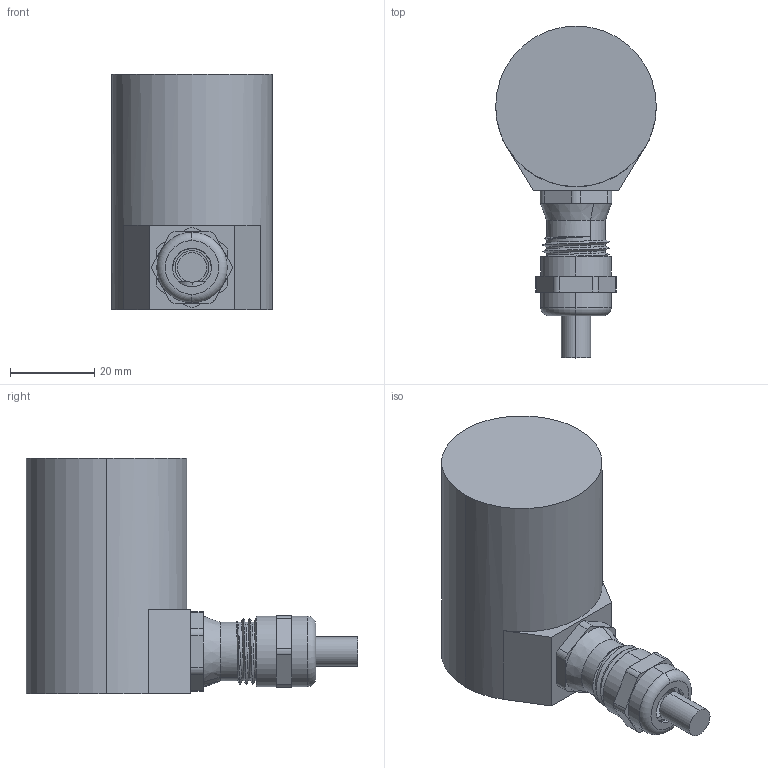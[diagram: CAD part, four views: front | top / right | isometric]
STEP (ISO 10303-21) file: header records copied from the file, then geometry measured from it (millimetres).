
FILE_DESCRIPTION (( 'STEP AP203' ), '1' );
FILE_NAME ('Drawing-MC-4-CR-569-4NM-NNN12B-N-CRW-L.STEP', '2013-05-21T08:05:50', ( '' ), ( '' ), 'SwSTEP 2.0', 'SolidWorks 2006104', '' );
FILE_SCHEMA (( 'CONFIG_CONTROL_DESIGN' ));
Length unit declared in the file: millimetre
Products named in the file (1): Drawing-MC-4-CR-569-4NM-NNN12B-N-CRW-L
Bounding box: 38.2 x 78.85 x 55.9 mm (x, y, z)
Volume: 11343.8 mm3; surface area: 24130.9 mm2
Topology: 6 solids, 6 shells, 345 faces, 928 edges, 606 vertices
Faces by surface type: cylinder 153, plane 145, torus 29, cone 8, bspline 8, sphere 2
Entity records: 13337 total; most frequent: CARTESIAN_POINT 4741, ORIENTED_EDGE 1848, DIRECTION 1764, EDGE_CURVE 924, AXIS2_PLACEMENT_3D 703, VERTEX_POINT 604, EDGE_LOOP 366, CIRCLE 365
